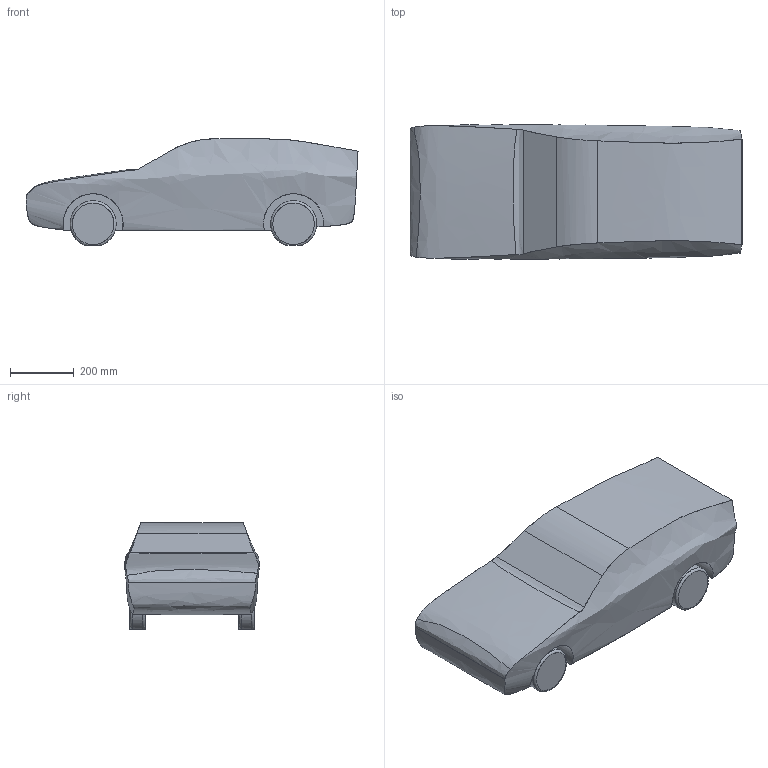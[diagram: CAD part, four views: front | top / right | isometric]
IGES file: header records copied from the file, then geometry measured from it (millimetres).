
Global section: file name: C:\Users\Nayan\Desktop\INspire.igs; native system: NX V9.0; preprocessor: SIEMENS PLM Software NX 9.0; date: 20150412.125851; units: millimetre
Bounding box: 1039.4 x 420.4 x 333 mm (x, y, z)
Surface area: 1641839.7 mm2 (no closed solid volume)
Topology: 0 solids, 0 shells, 44 faces, 802 edges, 822 vertices
Faces by surface type: bspline 44
